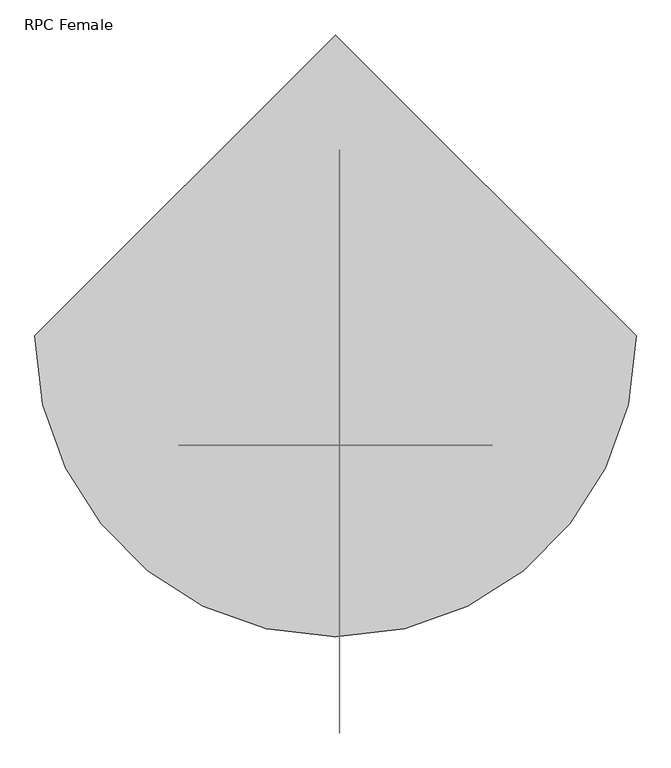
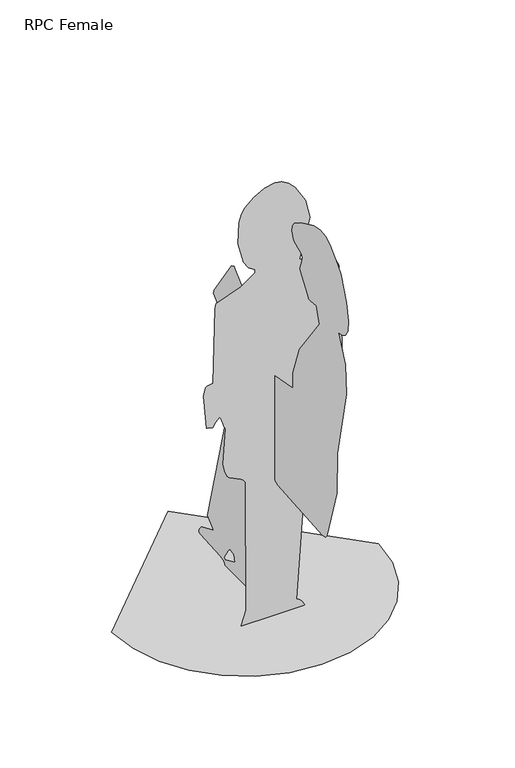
"""IFC4 building model written with IfcOpenShell, lengths in millimetres: proxy geometry, RPC Female : Cynthia."""

from ifc_helpers import new_model, si_unit, origin, place, context, project, spatial, triangles, source, transform, mapped, element, save


def rpc_female_db180e41(model_context):
    return source(origin(), model_context, "Body", "Tessellation", [
        triangles([(441.0115623, -0.000195, 2.95e-05), (429.3526809, -101.0508723, 2.95e-05), (396.1482759, -193.849741, 2.95e-05), (344.0570151, -275.7380384, 2.95e-05), (275.7379839, -344.0571968, 2.95e-05), (193.8496139, -396.1483123, 2.95e-05), (101.0507542, -429.3527172, 2.95e-05), (0.0001128, -441.0116713, 2.95e-05), (-101.0505544, -429.3527899, 2.95e-05), (-193.8494322, -396.148385, 2.95e-05), (-275.7377296, -344.0571241, 2.95e-05), (-344.0569061, -275.7380929, 2.95e-05), (-396.1479853, -193.8497047, 2.95e-05), (-429.3523902, -101.050836, 2.95e-05), (-441.0113442, -0.0002072, 2.95e-05), (0.0001438, 441.0112716, 2.95e-05), (5.6288573, 72.8588658, 70.0852524), (5.6288585, 67.5989398, 46.4156806), (5.6288573, 125.4578945, 20.1161663), (5.6288573, 130.7178024, 25.3760469), (5.6288568, 108.5117995, 62.7542455), (5.6288568, 96.5284376, 75.3451376), (5.6288636, -28.8463111, 4.4e-06), (5.6288636, -40.229117, 35.8958717), (5.6288636, -42.8589028, 37.582617), (5.6288625, -46.0255291, 39.5148301), (5.628863, -49.4069043, 41.5083494), (5.628863, -52.681005, 43.379338), (5.628863, -55.5256987, 44.9433777), (5.628863, -57.6189803, 46.0169087), (5.628863, -58.6387491, 46.4156852), (5.6288642, -58.6388308, 5.3e-06), (5.628867, -109.8769052, 6.9e-06), (5.6288664, -117.5638814, 30.0747313), (5.6288619, -110.2503108, 165.0034458), (5.6288494, -45.8425779, 492.8873202), (5.6288488, -48.1189788, 514.5472627), (5.6288494, -53.3788639, 517.177153), (5.6288551, -178.1910311, 465.0429442), (5.6288659, -434.6626039, 445.1924844), (5.6288664, -450.5017533, 448.7984416), (5.6288659, -460.0242462, 459.6877842), (5.6288625, -516.0170857, 641.4428965), (5.628859, -518.8805374, 782.802364), (5.6288539, -571.5700902, 1021.0322994), (5.6288505, -566.21969, 1122.0662487), (5.628846, -526.7703175, 1208.8547012), (5.6288471, -549.382382, 1214.8042654), (5.6288471, -565.9655994, 1225.2772453), (5.6288471, -578.7778625, 1246.7330578), (5.628846, -582.3522446, 1283.6603096), (5.6288443, -571.2219646, 1340.5468082), (5.6288409, -539.9200962, 1421.8809425), (5.6288392, -521.1666261, 1445.9133419), (5.6288363, -476.5802487, 1486.8137524), (5.6288346, -449.7626269, 1499.3802818), (5.6288341, -419.2722642, 1503.8241966), (5.6288324, -384.616676, 1497.9941746), (5.6288307, -310.7213682, 1462.458989), (5.6288295, -273.9932867, 1438.4605991), (5.6288295, -262.185559, 1422.5043056), (5.6288307, -258.6746723, 1403.1431328), (5.6288318, -266.4050325, 1379.8015343), (5.6288318, -272.8454643, 1373.0538357), (5.6288341, -310.0952073, 1357.378775), (5.6288341, -316.3479143, 1352.4607613), (5.6288341, -319.0040749, 1345.6121967), (5.6288346, -317.1758071, 1332.7887062), (5.6288358, -305.8543688, 1300.9030071), (5.6288358, -306.5085803, 1292.1762142), (5.6288386, -347.7776456, 1237.8581635), (5.6288397, -353.1935214, 1227.2643333), (5.6288397, -357.0101126, 1223.4171844), (5.6288403, -363.9689901, 1222.1001137), (5.6288409, -400.532674, 1227.2643333), (5.6288431, -416.3123068, 1172.0353643), (5.6288437, -303.2702605, 1016.0021559), (5.6288454, -265.1504216, 911.3598513), (5.6288466, -263.775124, 856.4411104), (5.6288437, -152.5272633, 835.1195194), (5.6288426, -132.277491, 835.401479), (5.628842, -148.158462, 880.886566), (5.628842, -148.0571964, 882.7405226), (5.6288414, -137.6855366, 888.0610554), (5.6288284, 66.8523783, 1071.7676474), (5.6288278, 73.5721762, 1077.1684078), (5.6288273, 86.0403423, 1072.7861898), (5.6288284, 188.4956529, 924.5040344), (5.6288278, 191.2067156, 911.6700068), (5.6288358, 75.4888061, 809.1019215), (5.6288375, 53.9765018, 775.0415005), (5.628838, 41.2994232, 764.3927319), (5.6288397, 7.1097666, 756.5028791), (5.6288437, -31.0002698, 687.1164167), (5.6288437, -32.3392324, 682.8642054), (5.628842, -2.8209363, 678.8459913), (5.6288397, 75.4888061, 672.3443533), (5.6288505, 225.3960531, 114.7944466), (5.6288528, 193.9320943, 87.1596054), (5.6288528, 191.2067156, 83.2349994), (5.6288517, 259.585536, 54.3055515), (5.6288517, 263.2692319, 51.0626081), (5.6288511, 269.2554763, 42.3128878), (5.6288517, 272.6934387, 33.4609936), (5.6288517, 273.1919003, 30.0901578), (5.6288517, 272.7351876, 28.0059895), (5.6288522, 264.4336776, 24.8814686), (5.6288562, 149.6562449, 17.8736649), (5.6288573, 130.7178024, 12.2262931), (5.6288579, 120.2380551, 0.0), (104.0908666, -160.2089529, 3.1649078), (94.3579033, -160.2089529, 19.4060443), (89.3722792, -160.2089529, 24.6666948), (83.6749889, -160.2089529, 28.6502543), (77.3615298, -160.2089529, 30.6359184), (108.9209679, -160.208971, 488.2475235), (167.928994, -160.208971, 532.4711686), (185.1884419, -160.2089529, 554.3915603), (197.8182488, -160.2089529, 580.1067784), (203.7634891, -160.2089529, 609.7401077), (200.9693101, -160.2089529, 643.4147964), (182.2653646, -160.2089529, 694.762825), (181.0317008, -160.2089529, 706.1069727), (182.5596598, -160.2089529, 717.0533976), (187.6063721, -160.2089529, 730.9447008), (194.3765257, -160.2089529, 745.9818644), (210.3236083, -160.2089529, 778.2543858), (229.8987579, -160.2089529, 827.5114082), (217.4196868, -160.2089892, 1149.3768637), (206.2291816, -160.2089892, 1174.6651457), (197.3626625, -160.2089892, 1180.1408289), (179.9116746, -160.2089892, 1186.5602772), (157.4188797, -160.2090074, 1193.4647249), (133.4268122, -160.2090074, 1200.3943165), (111.4781428, -160.2090074, 1206.8904316), (95.1154424, -160.2090074, 1212.4937233), (87.8813364, -160.2090074, 1216.7444086), (122.0707194, -160.2090074, 1350.8719048), (106.8578307, -160.2090437, 1414.361198), (72.812575, -160.2090437, 1471.759584), (51.5733646, -160.2090437, 1493.1552258), (29.0406965, -160.2090437, 1507.0042351), (6.3528099, -160.2090437, 1511.2990311), (-28.6189517, -160.2090437, 1503.9375618), (-63.4776388, -160.2090437, 1485.8245686), (-92.9896819, -160.2090437, 1457.7803501), (-104.1052189, -160.2090437, 1440.290284), (-113.0716229, -160.2090437, 1412.8615803), (-115.1812325, -160.2090074, 1340.4901257), (-96.9761937, -160.2090074, 1269.5770123), (-80.5492803, -160.2090074, 1243.9710171), (-59.3960202, -160.2090074, 1229.89426), (-59.3960202, -160.2090074, 1219.3742626), (-106.3336349, -160.2090074, 1187.1321173), (-188.2636903, -160.2090255, 1156.2553682), (-192.5278195, -160.2090255, 1139.830426), (-199.1336482, -160.2090255, 881.9724009), (-218.9549129, -160.2090255, 877.9899405), (-221.2948136, -160.2090255, 876.8949492), (-223.230524, -160.2090255, 874.3329689), (-229.8985581, -160.2089892, 846.8826822), (-219.8231193, -160.2089892, 732.8331757), (-218.615544, -160.2089892, 731.6850626), (-200.1001226, -160.2089892, 727.4659161), (-198.783506, -160.2089892, 727.5732496), (-189.8889181, -160.2089892, 742.3224947), (-177.7438927, -160.2089892, 756.5027338), (-174.0054945, -160.2089892, 750.6861557), (-170.8934751, -160.208971, 743.8743622), (-168.1785245, -160.208971, 736.4751045), (-165.631369, -160.208971, 728.8964973), (-163.0227891, -160.208971, 721.5464373), (-160.1235293, -160.208971, 714.8328209), (-156.7042613, -160.208971, 709.1635448), (-165.9934653, -160.208971, 587.3215633), (-161.082228, -160.208971, 562.7220474), (-151.4443625, -160.208971, 540.8466748), (-144.6676413, -160.208971, 533.0879914), (-106.327031, -160.208971, 513.8626024), (-97.6973615, -160.208971, 507.5200027), (-90.955422, -160.208971, 498.7673756), (-89.4974987, -160.2089529, 49.829067), (-106.3299469, -160.2089529, 7.46e-05), (105.2757234, -160.2089529, 7.46e-05)], [[16, 15, 1], [15, 14, 1], [1, 14, 2], [14, 13, 2], [2, 13, 3], [3, 13, 4], [13, 12, 4], [12, 11, 4], [4, 11, 5], [5, 11, 6], [6, 11, 7], [7, 11, 8], [8, 11, 9], [9, 11, 10], [17, 23, 18], [23, 110, 18], [18, 110, 19], [110, 109, 19], [23, 17, 24], [32, 31, 33], [33, 31, 34], [19, 109, 20], [109, 108, 20], [89, 88, 90], [83, 82, 84], [86, 85, 87], [106, 105, 107], [105, 104, 107], [104, 103, 107], [103, 102, 107], [102, 101, 107], [101, 100, 107], [107, 100, 108], [108, 100, 20], [20, 100, 21], [21, 100, 22], [88, 87, 90], [87, 85, 90], [85, 84, 90], [90, 84, 91], [91, 84, 92], [92, 84, 93], [84, 82, 93], [82, 81, 93], [93, 81, 94], [81, 80, 94], [94, 80, 95], [100, 99, 22], [24, 17, 25], [25, 17, 26], [34, 31, 35], [31, 30, 35], [26, 17, 27], [27, 17, 28], [28, 17, 29], [30, 29, 35], [29, 17, 35], [17, 22, 35], [22, 99, 35], [99, 98, 35], [98, 97, 35], [35, 97, 36], [36, 97, 37], [97, 96, 37], [37, 96, 38], [96, 95, 38], [95, 80, 38], [38, 80, 39], [80, 79, 39], [39, 79, 40], [40, 79, 41], [41, 79, 42], [42, 79, 43], [43, 79, 44], [79, 78, 44], [78, 77, 44], [44, 77, 45], [45, 77, 46], [77, 76, 46], [46, 76, 47], [76, 75, 47], [73, 72, 74], [72, 71, 74], [62, 61, 63], [61, 60, 63], [63, 60, 64], [60, 59, 64], [64, 59, 65], [65, 59, 66], [59, 58, 66], [58, 57, 66], [57, 56, 66], [56, 55, 66], [55, 54, 66], [66, 54, 67], [54, 53, 67], [53, 52, 67], [67, 52, 68], [52, 51, 68], [51, 50, 68], [50, 49, 68], [49, 48, 68], [48, 47, 68], [47, 75, 68], [75, 74, 68], [74, 71, 68], [71, 70, 68], [70, 69, 68], [184, 183, 111], [111, 183, 112], [112, 183, 113], [113, 183, 114], [114, 183, 115], [183, 182, 115], [182, 181, 115], [115, 181, 116], [155, 154, 156], [165, 164, 166], [181, 180, 116], [164, 163, 166], [163, 162, 166], [166, 162, 167], [162, 161, 167], [161, 160, 167], [160, 159, 167], [159, 158, 167], [158, 157, 167], [116, 180, 117], [117, 180, 118], [118, 180, 119], [119, 180, 120], [120, 180, 121], [121, 180, 122], [180, 179, 122], [122, 179, 123], [179, 178, 123], [178, 177, 123], [177, 176, 123], [176, 175, 123], [175, 174, 123], [123, 174, 124], [124, 174, 125], [174, 173, 125], [173, 172, 125], [172, 171, 125], [171, 170, 125], [170, 169, 125], [125, 169, 126], [169, 168, 126], [126, 168, 127], [168, 167, 127], [167, 157, 127], [127, 157, 128], [157, 156, 128], [156, 154, 128], [154, 153, 128], [128, 153, 129], [129, 153, 130], [130, 153, 131], [131, 153, 132], [132, 153, 133], [133, 153, 134], [134, 153, 135], [135, 153, 136], [136, 153, 137], [153, 152, 137], [152, 151, 137], [151, 150, 137], [150, 149, 137], [137, 149, 138], [138, 149, 139], [149, 148, 139], [148, 147, 139], [147, 146, 139], [139, 146, 140], [146, 145, 140], [140, 145, 141], [145, 144, 141], [141, 144, 142], [142, 144, 143]], closed=False),
    ])


if __name__ == "__main__":
    model = new_model("IFC4")
    model_context = context("Model", 3, world=origin())
    ifc_project = project(units=[si_unit("LENGTHUNIT", "METRE", prefix="MILLI")], contexts=[model_context])
    site = spatial("IfcSite", under=ifc_project)
    building = spatial("IfcBuilding", under=site)
    placement = place(None, origin())
    rpc_female_shape = rpc_female_db180e41(model_context)
    element("IfcBuildingElementProxy", 1, Name="RPC Female : Cynthia", ObjectType="RPC Female : Cynthia", at=placement, inside=building, context=model_context, shape_type="MappedRepresentation", body=[
        mapped(rpc_female_shape, transform((0.0, 0.0, 0.0), x_axis=(1.0, 0.0, 0.0), y_axis=(0.0, 1.0, 0.0), z_axis=(0.0, 0.0, 1.0))),
    ])
    save(model, "model.ifc")
